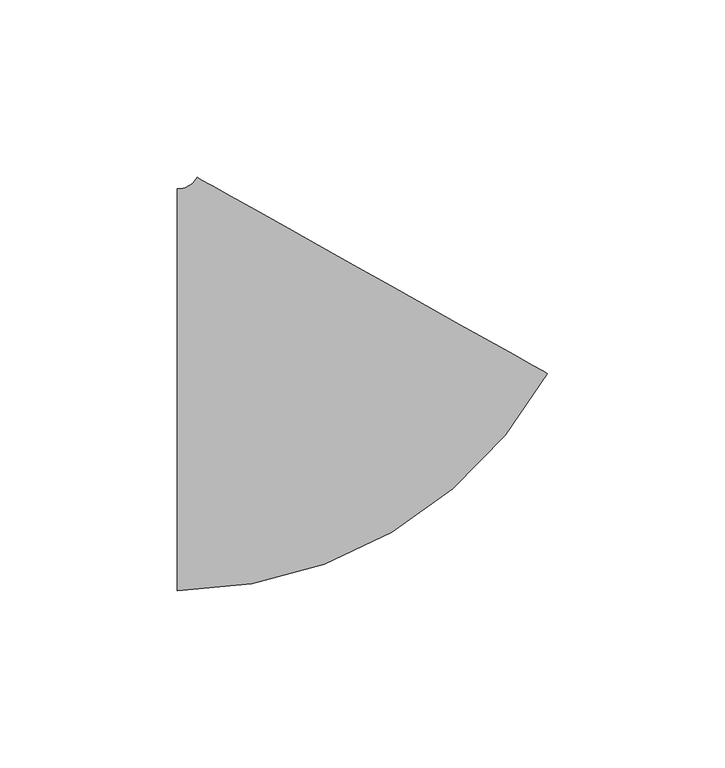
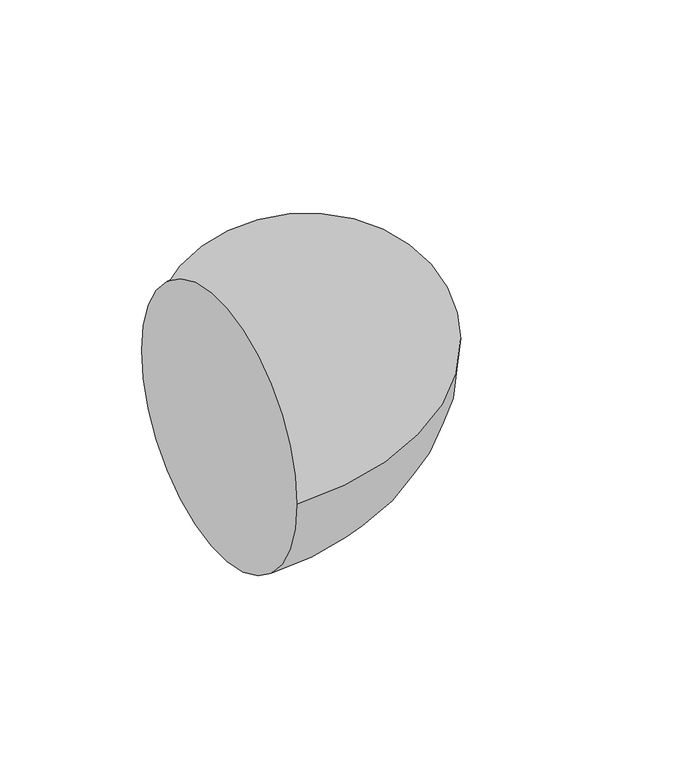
"""IFC4 building model written with IfcOpenShell, lengths in millimetres: pipe fitting geometry, M_Codo - Genérico : Estándar."""

from ifc_helpers import new_model, si_unit, point, frame, origin, place, context, project, spatial, circle_curve, ellipse_curve, trimmed, source, transform, mapped, element, save
from ifc_brep_helpers import plane_surface, revolved_surface, advanced_brep


def pipe_fitting_ca4916f3(model_context):
    return source(origin(), model_context, "Body", "AdvancedBrep", [
        advanced_brep(
        [(-36.8958883, -56.5875, 0.0), (-36.8958883, 56.5875, 0.0), (67.3996671, 4.553746, 0.0), (-31.3549824, 59.8357486, 0.0)],
        [
            (0, 1, circle_curve(frame((-36.8958883, 0.0, 0.0), z_axis=(-1.0, 0.0, 0.0), x_axis=(0.0, 1.0, 0.0)), 56.5875)),
            (1, 0, circle_curve(frame((-36.8958883, 0.0, 0.0), z_axis=(-1.0, 0.0, 0.0), x_axis=(0.0, 1.0, 0.0)), 56.5875)),
            (2, 3, circle_curve(frame((18.0223423, 32.1947473, 0.0), z_axis=(0.4884647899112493, 0.8725836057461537, 0.0), x_axis=(-0.8725836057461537, 0.4884647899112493, 0.0)), 56.5875)),
            (3, 2, circle_curve(frame((18.0223423, 32.1947473, 0.0), z_axis=(0.4884647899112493, 0.8725836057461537, 0.0), x_axis=(-0.8725836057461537, 0.4884647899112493, 0.0)), 56.5875)),
            (3, 1, circle_curve(frame((-36.8958883, 62.9375, 0.0), z_axis=(0.0, 0.0, -1.0), x_axis=(0.0, -1.0, 0.0)), 6.35)),
            (0, 2, circle_curve(frame((-36.8958883, 62.9375, 0.0), z_axis=(0.0, 0.0, 1.0), x_axis=(0.0, -1.0, 0.0)), 119.525)),
        ],
        [
            plane_surface(frame((-36.8958883, 0.0, 0.0), z_axis=(-1.0, 0.0, 0.0), x_axis=(0.0, 0.0, 1.0))),
            plane_surface(frame((18.0223423, 32.1947473, 0.0), z_axis=(0.4884647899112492, 0.8725836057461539, 0.0), x_axis=(0.0, 0.0, 1.0))),
            revolved_surface(trimmed(ellipse_curve(frame((-36.8958883, 0.0, 0.0), z_axis=(-1.0, 0.0, 0.0), x_axis=(0.0, 1.0, 0.0)), 56.5875, 56.5875), [point((-36.8958883, -56.5875, 0.0))], [point((-36.8958883, 56.5875, 0.0))], True, "CARTESIAN"), (-36.8958883, 62.9375, 0.0), (0.0, 0.0, 1.0)),
            revolved_surface(trimmed(ellipse_curve(frame((-36.8958883, 0.0, 0.0), z_axis=(-1.0, 0.0, 0.0), x_axis=(0.0, 1.0, 0.0)), 56.5875, 56.5875), [point((-36.8958883, 56.5875, 0.0))], [point((-36.8958883, -56.5875, 0.0))], True, "CARTESIAN"), (-36.8958883, 62.9375, 0.0), (0.0, 0.0, 1.0)),
        ],
        [
            (0, [[1, 2]]),
            (1, [[3, 4]]),
            (2, [[5, -1, 6, -4]]),
            (3, [[-6, -2, -5, -3]]),
        ],
    ),
    ])


if __name__ == "__main__":
    model = new_model("IFC4")
    model_context = context("Model", 3, world=origin())
    ifc_project = project(units=[si_unit("LENGTHUNIT", "METRE", prefix="MILLI")], contexts=[model_context])
    site = spatial("IfcSite", under=ifc_project)
    building = spatial("IfcBuilding", under=site)
    placement = place(None, origin())
    pipe_fitting_shape = pipe_fitting_ca4916f3(model_context)
    element("IfcPipeFitting", 1, ObjectType="M_Codo - Genérico : Estándar", at=placement, inside=building, context=model_context, shape_type="MappedRepresentation", body=[
        mapped(pipe_fitting_shape, transform((0.0, 0.0, 0.0), x_axis=(1.0, 0.0, 0.0), y_axis=(0.0, 1.0, 0.0), z_axis=(0.0, 0.0, 1.0))),
    ])
    save(model, "model.ifc")
